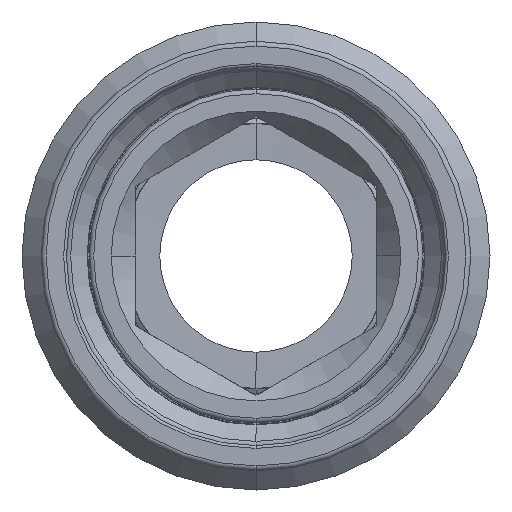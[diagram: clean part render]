
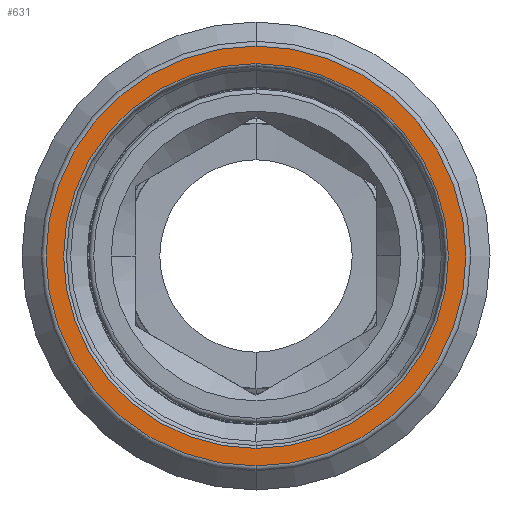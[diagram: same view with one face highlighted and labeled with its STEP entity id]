
A CAD part, front view. The second image highlights one B-rep face of the part: STEP entity #631.
In plain terms, the highlighted planar face has unit normal (0, -1, 0).
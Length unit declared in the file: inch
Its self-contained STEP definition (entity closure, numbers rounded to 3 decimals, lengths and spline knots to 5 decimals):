
#161 = DIRECTION ( 'NONE',  ( 0., 0., -1. ) ) ;
#275 = CARTESIAN_POINT ( 'NONE',  ( 0., 0., -0.406 ) ) ;
#357 = CARTESIAN_POINT ( 'NONE',  ( 0., 0., 0. ) ) ;
#601 = EDGE_CURVE ( 'NONE', #722, #3851, #1189, .T. ) ;
#607 = DIRECTION ( 'NONE',  ( 0., 0., -1. ) ) ;
#631 = ADVANCED_FACE ( 'NONE', ( #807, #1214 ), #3401, .T. ) ;
#722 = VERTEX_POINT ( 'NONE', #275 ) ;
#807 = FACE_OUTER_BOUND ( 'NONE', #3247, .T. ) ;
#824 = CARTESIAN_POINT ( 'NONE',  ( 0., 0., 0.453 ) ) ;
#1110 = CIRCLE ( 'NONE', #3959, 0.443 ) ;
#1130 = DIRECTION ( 'NONE',  ( 0., 0., -1. ) ) ;
#1180 = CIRCLE ( 'NONE', #2281, 0.406 ) ;
#1189 = CIRCLE ( 'NONE', #3845, 0.406 ) ;
#1206 = EDGE_LOOP ( 'NONE', ( #1837, #1413 ) ) ;
#1214 = FACE_BOUND ( 'NONE', #1206, .T. ) ;
#1217 = DIRECTION ( 'NONE',  ( 0., 0., -1. ) ) ;
#1284 = CARTESIAN_POINT ( 'NONE',  ( 0., 0., 0. ) ) ;
#1320 = CARTESIAN_POINT ( 'NONE',  ( 0., 0., 0.406 ) ) ;
#1413 = ORIENTED_EDGE ( 'NONE', *, *, #601, .F. ) ;
#1440 = VERTEX_POINT ( 'NONE', #2392 ) ;
#1547 = CARTESIAN_POINT ( 'NONE',  ( 0., 0., 0. ) ) ;
#1617 = AXIS2_PLACEMENT_3D ( 'NONE', #824, #3129, #1130 ) ;
#1835 = EDGE_CURVE ( 'NONE', #3927, #1440, #3012, .T. ) ;
#1837 = ORIENTED_EDGE ( 'NONE', *, *, #2376, .F. ) ;
#2200 = DIRECTION ( 'NONE',  ( 0., -1., 0. ) ) ;
#2281 = AXIS2_PLACEMENT_3D ( 'NONE', #1284, #3582, #607 ) ;
#2348 = DIRECTION ( 'NONE',  ( 0., 1., 0. ) ) ;
#2376 = EDGE_CURVE ( 'NONE', #3851, #722, #1180, .T. ) ;
#2392 = CARTESIAN_POINT ( 'NONE',  ( 0., 0., -0.443 ) ) ;
#2662 = ORIENTED_EDGE ( 'NONE', *, *, #1835, .F. ) ;
#3012 = CIRCLE ( 'NONE', #3488, 0.443 ) ;
#3129 = DIRECTION ( 'NONE',  ( 0., -1., 0. ) ) ;
#3247 = EDGE_LOOP ( 'NONE', ( #2662, #3271 ) ) ;
#3255 = EDGE_CURVE ( 'NONE', #1440, #3927, #1110, .T. ) ;
#3271 = ORIENTED_EDGE ( 'NONE', *, *, #3255, .F. ) ;
#3401 = PLANE ( 'NONE',  #1617 ) ;
#3488 = AXIS2_PLACEMENT_3D ( 'NONE', #357, #2348, #3975 ) ;
#3582 = DIRECTION ( 'NONE',  ( 0., -1., 0. ) ) ;
#3718 = CARTESIAN_POINT ( 'NONE',  ( 0., 0., 0.443 ) ) ;
#3740 = DIRECTION ( 'NONE',  ( 0., 1., 0. ) ) ;
#3845 = AXIS2_PLACEMENT_3D ( 'NONE', #4055, #2200, #161 ) ;
#3851 = VERTEX_POINT ( 'NONE', #1320 ) ;
#3927 = VERTEX_POINT ( 'NONE', #3718 ) ;
#3959 = AXIS2_PLACEMENT_3D ( 'NONE', #1547, #3740, #1217 ) ;
#3975 = DIRECTION ( 'NONE',  ( 0., 0., -1. ) ) ;
#4055 = CARTESIAN_POINT ( 'NONE',  ( 0., 0., 0. ) ) ;
